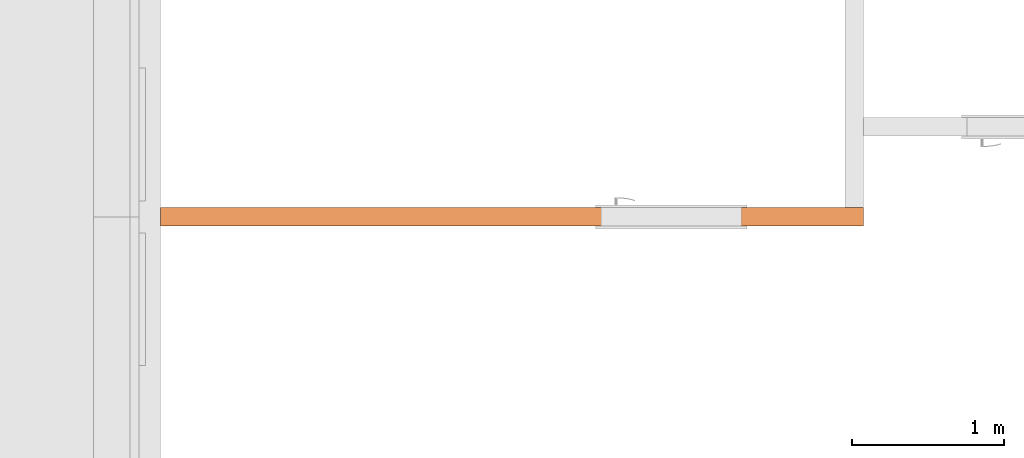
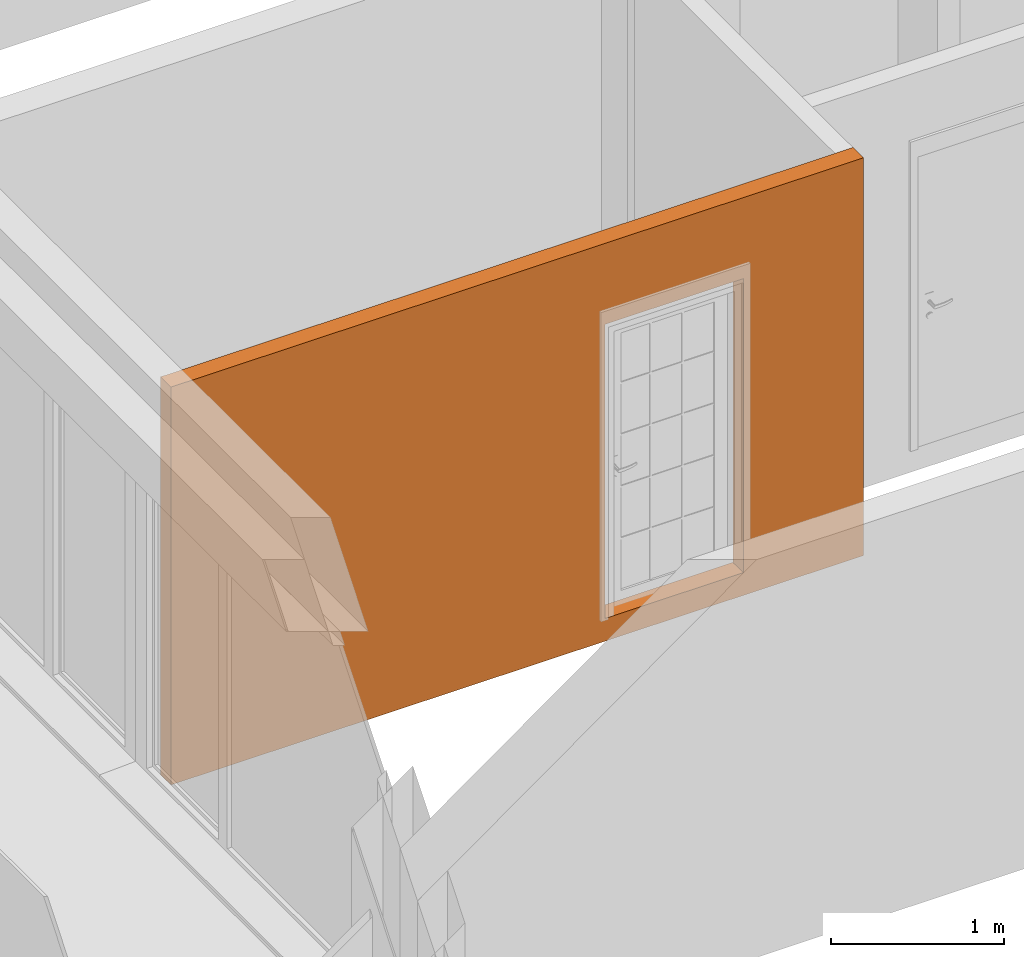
# One storey, part 38 of 64: 1 proxy, 1 opening.
"""IFC2X3 building model written with IfcOpenShell, lengths in millimetres."""

from ifc_helpers import new_model, entity, si_unit, converted_unit, derived_unit, money_unit, direction, frame, origin_with_axes, origin_2d_with_axis, place, context, subcontext, project, spatial, rectangle, extrude, faceted_brep, material, type_object, element, save


model = new_model("IFC2X3")

# Units and contexts
model_context = context("Model", 3, precision=0.01, world=origin_with_axes(), true_north=direction((0.34421633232, 0.938890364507)))
body_context = subcontext(model_context, "Body", "Model", "MODEL_VIEW")
ifc_project = project(units=[si_unit("LENGTHUNIT", "METRE", prefix="MILLI"), si_unit("AREAUNIT", "SQUARE_METRE"), si_unit("VOLUMEUNIT", "CUBIC_METRE"), converted_unit("PLANEANGLEUNIT", "DEGREE", entity("IfcPlaneAngleMeasure", 0.0174532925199), si_unit("PLANEANGLEUNIT", "RADIAN"), dimensions=[0, 0, 0, 0, 0, 0, 0]), si_unit("SOLIDANGLEUNIT", "STERADIAN"), money_unit("USD"), converted_unit("TIMEUNIT", "Year", entity("IfcTimeMeasure", 31556926.0), si_unit("TIMEUNIT", "SECOND"), dimensions=[0, 0, 1, 0, 0, 0, 0]), si_unit("MASSUNIT", "GRAM", prefix="KILO"), si_unit("THERMODYNAMICTEMPERATUREUNIT", "DEGREE_CELSIUS"), si_unit("LUMINOUSINTENSITYUNIT", "LUMEN"), si_unit("ENERGYUNIT", "JOULE", prefix="MEGA"), derived_unit("THERMALCONDUCTANCEUNIT", [(si_unit("POWERUNIT", "WATT"), 1), (si_unit("LENGTHUNIT", "METRE"), -1), (si_unit("THERMODYNAMICTEMPERATUREUNIT", "KELVIN"), -1)]), derived_unit("SPECIFICHEATCAPACITYUNIT", [(si_unit("ENERGYUNIT", "JOULE"), 1), (si_unit("MASSUNIT", "GRAM", prefix="KILO"), -1), (si_unit("THERMODYNAMICTEMPERATUREUNIT", "KELVIN"), -1)]), derived_unit("MASSDENSITYUNIT", [(si_unit("MASSUNIT", "GRAM", prefix="KILO"), 1), (si_unit("VOLUMEUNIT", "CUBIC_METRE"), -1)])], contexts=[model_context])

# Site, building, storey
site_placement = place(None, origin_with_axes())
site = spatial("IfcSite", under=ifc_project, at=site_placement, Name="USTRONIE MORSKIE", CompositionType="ELEMENT")
building_placement = place(site_placement, origin_with_axes())
building = spatial("IfcBuilding", under=site, at=building_placement, Name="Budynek", CompositionType="ELEMENT")
storey_placement = place(building_placement, frame((0.0, 0.0, 7000.0), z_axis=(0.0, 0.0, 1.0), x_axis=(1.0, 0.0, 0.0)))
storey = spatial("IfcBuildingStorey", under=building, at=storey_placement, Name="PIĘTRO 2", CompositionType="ELEMENT", Elevation=7000.0)

# Proxy, opening
ifc_material = material(Name="Bloczki silikatowe")
building_element_proxy_type = type_object("IfcBuildingElementProxyType", Name="Bloczki silikatowe 120", PredefinedType="NOTDEFINED")
proxy_placement = place(storey_placement, frame((354717.920919, 735951.179686, -160.0), z_axis=(0.0, 0.0, 1.0), x_axis=(-1.0, 0.0, 0.0)))
proxy = element("IfcBuildingElementProxy", 1, at=proxy_placement, inside=storey, type_object=building_element_proxy_type, material=ifc_material, Name="SW-04", context=body_context, shape_type="Brep", body=[
    faceted_brep([(4550.0, 59.9999999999, 0.0), (4550.0, -59.9999999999, 0.0), (-60.0, -59.9999999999, 0.0), (-60.0, 59.9999999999, 0.0), (4550.0, 59.9999999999, 2800.0), (4550.0, -59.9999999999, 2800.0), (-60.0, -59.9999999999, 2800.0), (-60.0, 59.9999999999, 2800.0)], [[[0, 1, 2, 3]], [[1, 0, 4, 5]], [[1, 5, 6, 2]], [[7, 3, 2, 6]], [[4, 0, 3, 7]], [[5, 4, 7, 6]]]),
])
opening_placement = place(proxy_placement, frame((1200.0, 0.0, 160.0), z_axis=(0.0, 0.0, 1.0), x_axis=(1.0, 0.0, 0.0)))
element("IfcOpeningElement", 2, at=opening_placement, cuts=proxy, Name="Dw.3", context=body_context, shape_type="SweptSolid", body=[
    extrude(rectangle(XDim=920.0, YDim=2070.0, at=origin_2d_with_axis()), frame((0.0, -120.0, 1035.0), z_axis=(0.0, 1.0, 0.0), x_axis=(-1.0, 0.0, 0.0)), (0.0, 0.0, 1.0), 360.0),
    extrude(rectangle(XDim=994.0, YDim=2177.0, at=origin_2d_with_axis()), frame((0.0, -59.9999999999, 1088.5), z_axis=(0.0, 1.0, 0.0), x_axis=(-1.0, 0.0, 0.0)), (0.0, 0.0, -1.0), 120.0),
    extrude(rectangle(XDim=994.0, YDim=2177.0, at=origin_2d_with_axis()), frame((0.0, 60.0000000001, 1088.5), z_axis=(0.0, -1.0, 0.0), x_axis=(-1.0, 0.0, 0.0)), (0.0, 0.0, -1.0), 120.0),
])

save(model, "model.ifc")
